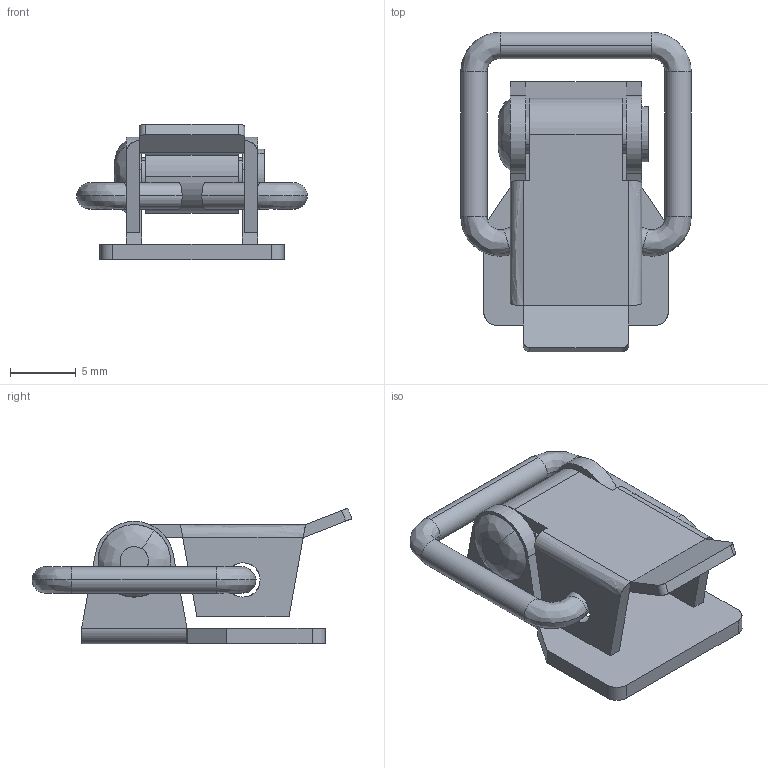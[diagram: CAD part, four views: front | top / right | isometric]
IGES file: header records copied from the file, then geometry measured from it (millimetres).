
Start section: SolidWorks IGES FILE using analytic representation for surfaces
Global section: file name: C:\WINNT\Profiles\cbrechard\Bureau\GO 564\GO 564.IGS; native system: SolidWorks 2001Plus by SolidWorks Corporation; preprocessor: Version 5.3; author: CBRECHARD; date: 050125.144719; units: millimetre
Bounding box: 17.5 x 24.27 x 10.3 mm (x, y, z)
Surface area: 1996.8 mm2 (no closed solid volume)
Topology: 0 solids, 0 shells, 104 faces, 1358 edges, 1358 vertices
Faces by surface type: bspline 61, revolution 43
